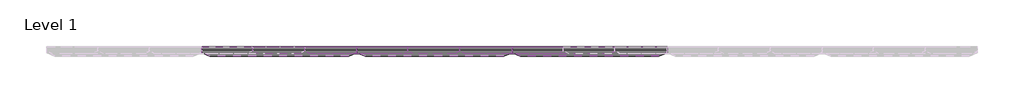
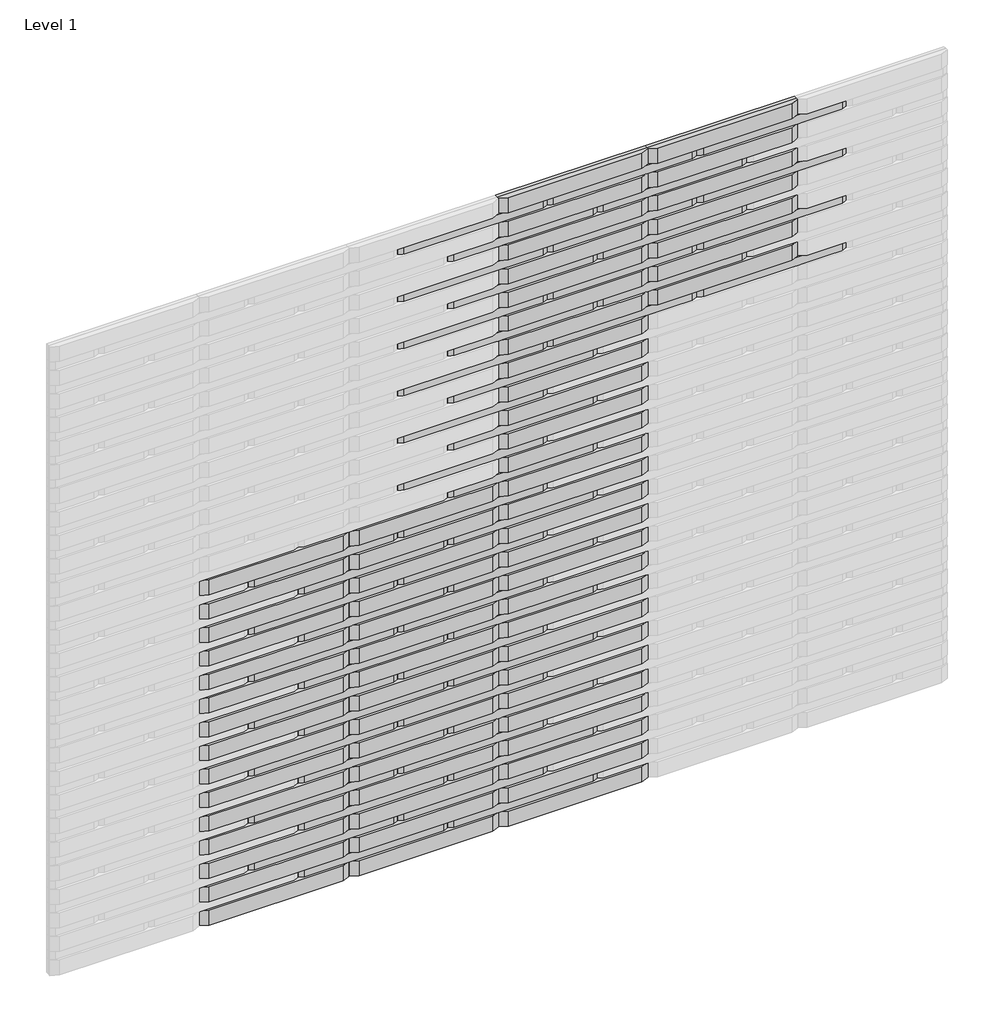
# One storey, part 2 of 3: 115 proxies.
"""IFC4 building model written with IfcOpenShell, lengths in millimetres."""

from ifc_helpers import new_model, si_unit, origin, place, context, project, spatial, transform, mapped, element, save
from components import specialty_equipment_40f1bc00, specialty_equipment_8bea2172

model = new_model("IFC4")

# Units and contexts
model_context = context("Model", 3, world=origin())
ifc_project = project(units=[si_unit("LENGTHUNIT", "METRE", prefix="MILLI")], contexts=[model_context])

# Site, building, storey
site = spatial("IfcSite", under=ifc_project)
building = spatial("IfcBuilding", under=site)
storey = spatial("IfcBuildingStorey", under=building, Name="Level 1", Elevation=0.0)

# Proxies
placement = place(None, origin())
specialty_equipment_shape = specialty_equipment_40f1bc00(model_context)
element("IfcBuildingElementProxy", 1, Name="Spinneybeck_ARO Plank 8 : A - 2’-9” x 3 1/2” x 1 1/4”", ObjectType="Spinneybeck_ARO Plank 8 : A - 2’-9” x 3 1/2” x 1 1/4”", at=placement, inside=storey, context=model_context, shape_type="MappedRepresentation", body=[
    mapped(specialty_equipment_shape, transform((2814.579612, 2593.3070483, 3755.55), x_axis=(1.0, 0.0, 0.0), y_axis=(0.0, 0.0, 1.0), z_axis=(0.0, -1.0, 0.0))),
])
element("IfcBuildingElementProxy", 2, Name="Spinneybeck_ARO Plank 8 : A - 2’-9” x 3 1/2” x 1 1/4”", ObjectType="Spinneybeck_ARO Plank 8 : A - 2’-9” x 3 1/2” x 1 1/4”", at=placement, inside=storey, context=model_context, shape_type="MappedRepresentation", body=[
    mapped(specialty_equipment_shape, transform((3652.779612, 2593.3070483, 3755.55), x_axis=(1.0, 0.0, 0.0), y_axis=(0.0, 0.0, 1.0), z_axis=(0.0, -1.0, 0.0))),
])
element("IfcBuildingElementProxy", 3, Name="Spinneybeck_ARO Plank 8 : A - 2’-9” x 3 1/2” x 1 1/4”", ObjectType="Spinneybeck_ARO Plank 8 : A - 2’-9” x 3 1/2” x 1 1/4”", at=placement, inside=storey, context=model_context, shape_type="MappedRepresentation", body=[
    mapped(specialty_equipment_shape, transform((2814.579612, 2593.3070483, 3615.85), x_axis=(1.0, 0.0, 0.0), y_axis=(0.0, 0.0, 1.0), z_axis=(0.0, -1.0, 0.0))),
])
element("IfcBuildingElementProxy", 4, Name="Spinneybeck_ARO Plank 8 : A - 2’-9” x 3 1/2” x 1 1/4”", ObjectType="Spinneybeck_ARO Plank 8 : A - 2’-9” x 3 1/2” x 1 1/4”", at=placement, inside=storey, context=model_context, shape_type="MappedRepresentation", body=[
    mapped(specialty_equipment_shape, transform((3652.779612, 2593.3070483, 3615.85), x_axis=(1.0, 0.0, 0.0), y_axis=(0.0, 0.0, 1.0), z_axis=(0.0, -1.0, 0.0))),
])
element("IfcBuildingElementProxy", 5, Name="Spinneybeck_ARO Plank 8 : A - 2’-9” x 3 1/2” x 1 1/4”", ObjectType="Spinneybeck_ARO Plank 8 : A - 2’-9” x 3 1/2” x 1 1/4”", at=placement, inside=storey, context=model_context, shape_type="MappedRepresentation", body=[
    mapped(specialty_equipment_shape, transform((2814.579612, 2593.3070483, 3476.15), x_axis=(1.0, 0.0, 0.0), y_axis=(0.0, 0.0, 1.0), z_axis=(0.0, -1.0, 0.0))),
])
element("IfcBuildingElementProxy", 6, Name="Spinneybeck_ARO Plank 8 : A - 2’-9” x 3 1/2” x 1 1/4”", ObjectType="Spinneybeck_ARO Plank 8 : A - 2’-9” x 3 1/2” x 1 1/4”", at=placement, inside=storey, context=model_context, shape_type="MappedRepresentation", body=[
    mapped(specialty_equipment_shape, transform((3652.779612, 2593.3070483, 3476.15), x_axis=(1.0, 0.0, 0.0), y_axis=(0.0, 0.0, 1.0), z_axis=(0.0, -1.0, 0.0))),
])
element("IfcBuildingElementProxy", 7, Name="Spinneybeck_ARO Plank 8 : A - 2’-9” x 3 1/2” x 1 1/4”", ObjectType="Spinneybeck_ARO Plank 8 : A - 2’-9” x 3 1/2” x 1 1/4”", at=placement, inside=storey, context=model_context, shape_type="MappedRepresentation", body=[
    mapped(specialty_equipment_shape, transform((2814.579612, 2593.3070483, 3336.45), x_axis=(1.0, 0.0, 0.0), y_axis=(0.0, 0.0, 1.0), z_axis=(0.0, -1.0, 0.0))),
])
element("IfcBuildingElementProxy", 8, Name="Spinneybeck_ARO Plank 8 : A - 2’-9” x 3 1/2” x 1 1/4”", ObjectType="Spinneybeck_ARO Plank 8 : A - 2’-9” x 3 1/2” x 1 1/4”", at=placement, inside=storey, context=model_context, shape_type="MappedRepresentation", body=[
    mapped(specialty_equipment_shape, transform((3652.779612, 2593.3070483, 3336.45), x_axis=(1.0, 0.0, 0.0), y_axis=(0.0, 0.0, 1.0), z_axis=(0.0, -1.0, 0.0))),
])
element("IfcBuildingElementProxy", 9, Name="Spinneybeck_ARO Plank 8 : A - 2’-9” x 3 1/2” x 1 1/4”", ObjectType="Spinneybeck_ARO Plank 8 : A - 2’-9” x 3 1/2” x 1 1/4”", at=placement, inside=storey, context=model_context, shape_type="MappedRepresentation", body=[
    mapped(specialty_equipment_shape, transform((2814.579612, 2593.3070483, 3196.75), x_axis=(1.0, 0.0, 0.0), y_axis=(0.0, 0.0, 1.0), z_axis=(0.0, -1.0, 0.0))),
])
element("IfcBuildingElementProxy", 10, Name="Spinneybeck_ARO Plank 8 : A - 2’-9” x 3 1/2” x 1 1/4”", ObjectType="Spinneybeck_ARO Plank 8 : A - 2’-9” x 3 1/2” x 1 1/4”", at=placement, inside=storey, context=model_context, shape_type="MappedRepresentation", body=[
    mapped(specialty_equipment_shape, transform((3652.779612, 2593.3070483, 3196.75), x_axis=(1.0, 0.0, 0.0), y_axis=(0.0, 0.0, 1.0), z_axis=(0.0, -1.0, 0.0))),
])
element("IfcBuildingElementProxy", 11, Name="Spinneybeck_ARO Plank 8 : A - 2’-9” x 3 1/2” x 1 1/4”", ObjectType="Spinneybeck_ARO Plank 8 : A - 2’-9” x 3 1/2” x 1 1/4”", at=placement, inside=storey, context=model_context, shape_type="MappedRepresentation", body=[
    mapped(specialty_equipment_shape, transform((2814.579612, 2593.3070483, 3057.05), x_axis=(1.0, 0.0, 0.0), y_axis=(0.0, 0.0, 1.0), z_axis=(0.0, -1.0, 0.0))),
])
element("IfcBuildingElementProxy", 12, Name="Spinneybeck_ARO Plank 8 : A - 2’-9” x 3 1/2” x 1 1/4”", ObjectType="Spinneybeck_ARO Plank 8 : A - 2’-9” x 3 1/2” x 1 1/4”", at=placement, inside=storey, context=model_context, shape_type="MappedRepresentation", body=[
    mapped(specialty_equipment_shape, transform((3652.779612, 2593.3070483, 3057.05), x_axis=(1.0, 0.0, 0.0), y_axis=(0.0, 0.0, 1.0), z_axis=(0.0, -1.0, 0.0))),
])
element("IfcBuildingElementProxy", 13, Name="Spinneybeck_ARO Plank 8 : A - 2’-9” x 3 1/2” x 1 1/4”", ObjectType="Spinneybeck_ARO Plank 8 : A - 2’-9” x 3 1/2” x 1 1/4”", at=placement, inside=storey, context=model_context, shape_type="MappedRepresentation", body=[
    mapped(specialty_equipment_shape, transform((2814.579612, 2593.3070483, 2917.35), x_axis=(1.0, 0.0, 0.0), y_axis=(0.0, 0.0, 1.0), z_axis=(0.0, -1.0, 0.0))),
])
element("IfcBuildingElementProxy", 14, Name="Spinneybeck_ARO Plank 8 : A - 2’-9” x 3 1/2” x 1 1/4”", ObjectType="Spinneybeck_ARO Plank 8 : A - 2’-9” x 3 1/2” x 1 1/4”", at=placement, inside=storey, context=model_context, shape_type="MappedRepresentation", body=[
    mapped(specialty_equipment_shape, transform((3652.779612, 2593.3070483, 2917.35), x_axis=(1.0, 0.0, 0.0), y_axis=(0.0, 0.0, 1.0), z_axis=(0.0, -1.0, 0.0))),
])
element("IfcBuildingElementProxy", 15, Name="Spinneybeck_ARO Plank 8 : A - 2’-9” x 3 1/2” x 1 1/4”", ObjectType="Spinneybeck_ARO Plank 8 : A - 2’-9” x 3 1/2” x 1 1/4”", at=placement, inside=storey, context=model_context, shape_type="MappedRepresentation", body=[
    mapped(specialty_equipment_shape, transform((2814.579612, 2593.3070483, 2777.65), x_axis=(1.0, 0.0, 0.0), y_axis=(0.0, 0.0, 1.0), z_axis=(0.0, -1.0, 0.0))),
])
element("IfcBuildingElementProxy", 16, Name="Spinneybeck_ARO Plank 8 : A - 2’-9” x 3 1/2” x 1 1/4”", ObjectType="Spinneybeck_ARO Plank 8 : A - 2’-9” x 3 1/2” x 1 1/4”", at=placement, inside=storey, context=model_context, shape_type="MappedRepresentation", body=[
    mapped(specialty_equipment_shape, transform((2814.579612, 2593.3070483, 2637.95), x_axis=(1.0, 0.0, 0.0), y_axis=(0.0, 0.0, 1.0), z_axis=(0.0, -1.0, 0.0))),
])
element("IfcBuildingElementProxy", 17, Name="Spinneybeck_ARO Plank 8 : A - 2’-9” x 3 1/2” x 1 1/4”", ObjectType="Spinneybeck_ARO Plank 8 : A - 2’-9” x 3 1/2” x 1 1/4”", at=placement, inside=storey, context=model_context, shape_type="MappedRepresentation", body=[
    mapped(specialty_equipment_shape, transform((2814.579612, 2593.3070483, 2498.25), x_axis=(1.0, 0.0, 0.0), y_axis=(0.0, 0.0, 1.0), z_axis=(0.0, -1.0, 0.0))),
])
element("IfcBuildingElementProxy", 18, Name="Spinneybeck_ARO Plank 8 : A - 2’-9” x 3 1/2” x 1 1/4”", ObjectType="Spinneybeck_ARO Plank 8 : A - 2’-9” x 3 1/2” x 1 1/4”", at=placement, inside=storey, context=model_context, shape_type="MappedRepresentation", body=[
    mapped(specialty_equipment_shape, transform((2814.579612, 2593.3070483, 2358.55), x_axis=(1.0, 0.0, 0.0), y_axis=(0.0, 0.0, 1.0), z_axis=(0.0, -1.0, 0.0))),
])
element("IfcBuildingElementProxy", 19, Name="Spinneybeck_ARO Plank 8 : A - 2’-9” x 3 1/2” x 1 1/4”", ObjectType="Spinneybeck_ARO Plank 8 : A - 2’-9” x 3 1/2” x 1 1/4”", at=placement, inside=storey, context=model_context, shape_type="MappedRepresentation", body=[
    mapped(specialty_equipment_shape, transform((2814.579612, 2593.3070483, 2218.85), x_axis=(1.0, 0.0, 0.0), y_axis=(0.0, 0.0, 1.0), z_axis=(0.0, -1.0, 0.0))),
])
element("IfcBuildingElementProxy", 20, Name="Spinneybeck_ARO Plank 8 : A - 2’-9” x 3 1/2” x 1 1/4”", ObjectType="Spinneybeck_ARO Plank 8 : A - 2’-9” x 3 1/2” x 1 1/4”", at=placement, inside=storey, context=model_context, shape_type="MappedRepresentation", body=[
    mapped(specialty_equipment_shape, transform((1138.179612, 2593.3070483, 2079.15), x_axis=(1.0, 0.0, 0.0), y_axis=(0.0, 0.0, 1.0), z_axis=(0.0, -1.0, 0.0))),
])
element("IfcBuildingElementProxy", 21, Name="Spinneybeck_ARO Plank 8 : A - 2’-9” x 3 1/2” x 1 1/4”", ObjectType="Spinneybeck_ARO Plank 8 : A - 2’-9” x 3 1/2” x 1 1/4”", at=placement, inside=storey, context=model_context, shape_type="MappedRepresentation", body=[
    mapped(specialty_equipment_shape, transform((1976.379612, 2593.3070483, 2079.15), x_axis=(1.0, 0.0, 0.0), y_axis=(0.0, 0.0, 1.0), z_axis=(0.0, -1.0, 0.0))),
])
element("IfcBuildingElementProxy", 22, Name="Spinneybeck_ARO Plank 8 : A - 2’-9” x 3 1/2” x 1 1/4”", ObjectType="Spinneybeck_ARO Plank 8 : A - 2’-9” x 3 1/2” x 1 1/4”", at=placement, inside=storey, context=model_context, shape_type="MappedRepresentation", body=[
    mapped(specialty_equipment_shape, transform((2814.579612, 2593.3070483, 2079.15), x_axis=(1.0, 0.0, 0.0), y_axis=(0.0, 0.0, 1.0), z_axis=(0.0, -1.0, 0.0))),
])
element("IfcBuildingElementProxy", 23, Name="Spinneybeck_ARO Plank 8 : A - 2’-9” x 3 1/2” x 1 1/4”", ObjectType="Spinneybeck_ARO Plank 8 : A - 2’-9” x 3 1/2” x 1 1/4”", at=placement, inside=storey, context=model_context, shape_type="MappedRepresentation", body=[
    mapped(specialty_equipment_shape, transform((1138.179612, 2593.3070483, 1939.45), x_axis=(1.0, 0.0, 0.0), y_axis=(0.0, 0.0, 1.0), z_axis=(0.0, -1.0, 0.0))),
])
element("IfcBuildingElementProxy", 24, Name="Spinneybeck_ARO Plank 8 : A - 2’-9” x 3 1/2” x 1 1/4”", ObjectType="Spinneybeck_ARO Plank 8 : A - 2’-9” x 3 1/2” x 1 1/4”", at=placement, inside=storey, context=model_context, shape_type="MappedRepresentation", body=[
    mapped(specialty_equipment_shape, transform((1976.379612, 2593.3070483, 1939.45), x_axis=(1.0, 0.0, 0.0), y_axis=(0.0, 0.0, 1.0), z_axis=(0.0, -1.0, 0.0))),
])
element("IfcBuildingElementProxy", 25, Name="Spinneybeck_ARO Plank 8 : A - 2’-9” x 3 1/2” x 1 1/4”", ObjectType="Spinneybeck_ARO Plank 8 : A - 2’-9” x 3 1/2” x 1 1/4”", at=placement, inside=storey, context=model_context, shape_type="MappedRepresentation", body=[
    mapped(specialty_equipment_shape, transform((2814.579612, 2593.3070483, 1939.45), x_axis=(1.0, 0.0, 0.0), y_axis=(0.0, 0.0, 1.0), z_axis=(0.0, -1.0, 0.0))),
])
element("IfcBuildingElementProxy", 26, Name="Spinneybeck_ARO Plank 8 : A - 2’-9” x 3 1/2” x 1 1/4”", ObjectType="Spinneybeck_ARO Plank 8 : A - 2’-9” x 3 1/2” x 1 1/4”", at=placement, inside=storey, context=model_context, shape_type="MappedRepresentation", body=[
    mapped(specialty_equipment_shape, transform((1138.179612, 2593.3070483, 1799.75), x_axis=(1.0, 0.0, 0.0), y_axis=(0.0, 0.0, 1.0), z_axis=(0.0, -1.0, 0.0))),
])
element("IfcBuildingElementProxy", 27, Name="Spinneybeck_ARO Plank 8 : A - 2’-9” x 3 1/2” x 1 1/4”", ObjectType="Spinneybeck_ARO Plank 8 : A - 2’-9” x 3 1/2” x 1 1/4”", at=placement, inside=storey, context=model_context, shape_type="MappedRepresentation", body=[
    mapped(specialty_equipment_shape, transform((1976.379612, 2593.3070483, 1799.75), x_axis=(1.0, 0.0, 0.0), y_axis=(0.0, 0.0, 1.0), z_axis=(0.0, -1.0, 0.0))),
])
element("IfcBuildingElementProxy", 28, Name="Spinneybeck_ARO Plank 8 : A - 2’-9” x 3 1/2” x 1 1/4”", ObjectType="Spinneybeck_ARO Plank 8 : A - 2’-9” x 3 1/2” x 1 1/4”", at=placement, inside=storey, context=model_context, shape_type="MappedRepresentation", body=[
    mapped(specialty_equipment_shape, transform((2814.579612, 2593.3070483, 1799.75), x_axis=(1.0, 0.0, 0.0), y_axis=(0.0, 0.0, 1.0), z_axis=(0.0, -1.0, 0.0))),
])
element("IfcBuildingElementProxy", 29, Name="Spinneybeck_ARO Plank 8 : A - 2’-9” x 3 1/2” x 1 1/4”", ObjectType="Spinneybeck_ARO Plank 8 : A - 2’-9” x 3 1/2” x 1 1/4”", at=placement, inside=storey, context=model_context, shape_type="MappedRepresentation", body=[
    mapped(specialty_equipment_shape, transform((1138.179612, 2593.3070483, 1660.05), x_axis=(1.0, 0.0, 0.0), y_axis=(0.0, 0.0, 1.0), z_axis=(0.0, -1.0, 0.0))),
])
element("IfcBuildingElementProxy", 30, Name="Spinneybeck_ARO Plank 8 : A - 2’-9” x 3 1/2” x 1 1/4”", ObjectType="Spinneybeck_ARO Plank 8 : A - 2’-9” x 3 1/2” x 1 1/4”", at=placement, inside=storey, context=model_context, shape_type="MappedRepresentation", body=[
    mapped(specialty_equipment_shape, transform((1976.379612, 2593.3070483, 1660.05), x_axis=(1.0, 0.0, 0.0), y_axis=(0.0, 0.0, 1.0), z_axis=(0.0, -1.0, 0.0))),
])
element("IfcBuildingElementProxy", 31, Name="Spinneybeck_ARO Plank 8 : A - 2’-9” x 3 1/2” x 1 1/4”", ObjectType="Spinneybeck_ARO Plank 8 : A - 2’-9” x 3 1/2” x 1 1/4”", at=placement, inside=storey, context=model_context, shape_type="MappedRepresentation", body=[
    mapped(specialty_equipment_shape, transform((2814.579612, 2593.3070483, 1660.05), x_axis=(1.0, 0.0, 0.0), y_axis=(0.0, 0.0, 1.0), z_axis=(0.0, -1.0, 0.0))),
])
element("IfcBuildingElementProxy", 32, Name="Spinneybeck_ARO Plank 8 : A - 2’-9” x 3 1/2” x 1 1/4”", ObjectType="Spinneybeck_ARO Plank 8 : A - 2’-9” x 3 1/2” x 1 1/4”", at=placement, inside=storey, context=model_context, shape_type="MappedRepresentation", body=[
    mapped(specialty_equipment_shape, transform((1138.179612, 2593.3070483, 1520.35), x_axis=(1.0, 0.0, 0.0), y_axis=(0.0, 0.0, 1.0), z_axis=(0.0, -1.0, 0.0))),
])
element("IfcBuildingElementProxy", 33, Name="Spinneybeck_ARO Plank 8 : A - 2’-9” x 3 1/2” x 1 1/4”", ObjectType="Spinneybeck_ARO Plank 8 : A - 2’-9” x 3 1/2” x 1 1/4”", at=placement, inside=storey, context=model_context, shape_type="MappedRepresentation", body=[
    mapped(specialty_equipment_shape, transform((1976.379612, 2593.3070483, 1520.35), x_axis=(1.0, 0.0, 0.0), y_axis=(0.0, 0.0, 1.0), z_axis=(0.0, -1.0, 0.0))),
])
element("IfcBuildingElementProxy", 34, Name="Spinneybeck_ARO Plank 8 : A - 2’-9” x 3 1/2” x 1 1/4”", ObjectType="Spinneybeck_ARO Plank 8 : A - 2’-9” x 3 1/2” x 1 1/4”", at=placement, inside=storey, context=model_context, shape_type="MappedRepresentation", body=[
    mapped(specialty_equipment_shape, transform((2814.579612, 2593.3070483, 1520.35), x_axis=(1.0, 0.0, 0.0), y_axis=(0.0, 0.0, 1.0), z_axis=(0.0, -1.0, 0.0))),
])
element("IfcBuildingElementProxy", 35, Name="Spinneybeck_ARO Plank 8 : A - 2’-9” x 3 1/2” x 1 1/4”", ObjectType="Spinneybeck_ARO Plank 8 : A - 2’-9” x 3 1/2” x 1 1/4”", at=placement, inside=storey, context=model_context, shape_type="MappedRepresentation", body=[
    mapped(specialty_equipment_shape, transform((1138.179612, 2593.3070483, 1380.65), x_axis=(1.0, 0.0, 0.0), y_axis=(0.0, 0.0, 1.0), z_axis=(0.0, -1.0, 0.0))),
])
element("IfcBuildingElementProxy", 36, Name="Spinneybeck_ARO Plank 8 : A - 2’-9” x 3 1/2” x 1 1/4”", ObjectType="Spinneybeck_ARO Plank 8 : A - 2’-9” x 3 1/2” x 1 1/4”", at=placement, inside=storey, context=model_context, shape_type="MappedRepresentation", body=[
    mapped(specialty_equipment_shape, transform((1976.379612, 2593.3070483, 1380.65), x_axis=(1.0, 0.0, 0.0), y_axis=(0.0, 0.0, 1.0), z_axis=(0.0, -1.0, 0.0))),
])
element("IfcBuildingElementProxy", 37, Name="Spinneybeck_ARO Plank 8 : A - 2’-9” x 3 1/2” x 1 1/4”", ObjectType="Spinneybeck_ARO Plank 8 : A - 2’-9” x 3 1/2” x 1 1/4”", at=placement, inside=storey, context=model_context, shape_type="MappedRepresentation", body=[
    mapped(specialty_equipment_shape, transform((2814.579612, 2593.3070483, 1380.65), x_axis=(1.0, 0.0, 0.0), y_axis=(0.0, 0.0, 1.0), z_axis=(0.0, -1.0, 0.0))),
])
element("IfcBuildingElementProxy", 38, Name="Spinneybeck_ARO Plank 8 : A - 2’-9” x 3 1/2” x 1 1/4”", ObjectType="Spinneybeck_ARO Plank 8 : A - 2’-9” x 3 1/2” x 1 1/4”", at=placement, inside=storey, context=model_context, shape_type="MappedRepresentation", body=[
    mapped(specialty_equipment_shape, transform((1138.179612, 2593.3070483, 1240.95), x_axis=(1.0, 0.0, 0.0), y_axis=(0.0, 0.0, 1.0), z_axis=(0.0, -1.0, 0.0))),
])
element("IfcBuildingElementProxy", 39, Name="Spinneybeck_ARO Plank 8 : A - 2’-9” x 3 1/2” x 1 1/4”", ObjectType="Spinneybeck_ARO Plank 8 : A - 2’-9” x 3 1/2” x 1 1/4”", at=placement, inside=storey, context=model_context, shape_type="MappedRepresentation", body=[
    mapped(specialty_equipment_shape, transform((1976.379612, 2593.3070483, 1240.95), x_axis=(1.0, 0.0, 0.0), y_axis=(0.0, 0.0, 1.0), z_axis=(0.0, -1.0, 0.0))),
])
element("IfcBuildingElementProxy", 40, Name="Spinneybeck_ARO Plank 8 : A - 2’-9” x 3 1/2” x 1 1/4”", ObjectType="Spinneybeck_ARO Plank 8 : A - 2’-9” x 3 1/2” x 1 1/4”", at=placement, inside=storey, context=model_context, shape_type="MappedRepresentation", body=[
    mapped(specialty_equipment_shape, transform((2814.579612, 2593.3070483, 1240.95), x_axis=(1.0, 0.0, 0.0), y_axis=(0.0, 0.0, 1.0), z_axis=(0.0, -1.0, 0.0))),
])
element("IfcBuildingElementProxy", 41, Name="Spinneybeck_ARO Plank 8 : A - 2’-9” x 3 1/2” x 1 1/4”", ObjectType="Spinneybeck_ARO Plank 8 : A - 2’-9” x 3 1/2” x 1 1/4”", at=placement, inside=storey, context=model_context, shape_type="MappedRepresentation", body=[
    mapped(specialty_equipment_shape, transform((1138.179612, 2593.3070483, 1101.25), x_axis=(1.0, 0.0, 0.0), y_axis=(0.0, 0.0, 1.0), z_axis=(0.0, -1.0, 0.0))),
])
element("IfcBuildingElementProxy", 42, Name="Spinneybeck_ARO Plank 8 : A - 2’-9” x 3 1/2” x 1 1/4”", ObjectType="Spinneybeck_ARO Plank 8 : A - 2’-9” x 3 1/2” x 1 1/4”", at=placement, inside=storey, context=model_context, shape_type="MappedRepresentation", body=[
    mapped(specialty_equipment_shape, transform((1976.379612, 2593.3070483, 1101.25), x_axis=(1.0, 0.0, 0.0), y_axis=(0.0, 0.0, 1.0), z_axis=(0.0, -1.0, 0.0))),
])
element("IfcBuildingElementProxy", 43, Name="Spinneybeck_ARO Plank 8 : A - 2’-9” x 3 1/2” x 1 1/4”", ObjectType="Spinneybeck_ARO Plank 8 : A - 2’-9” x 3 1/2” x 1 1/4”", at=placement, inside=storey, context=model_context, shape_type="MappedRepresentation", body=[
    mapped(specialty_equipment_shape, transform((2814.579612, 2593.3070483, 1101.25), x_axis=(1.0, 0.0, 0.0), y_axis=(0.0, 0.0, 1.0), z_axis=(0.0, -1.0, 0.0))),
])
element("IfcBuildingElementProxy", 44, Name="Spinneybeck_ARO Plank 8 : A - 2’-9” x 3 1/2” x 1 1/4”", ObjectType="Spinneybeck_ARO Plank 8 : A - 2’-9” x 3 1/2” x 1 1/4”", at=placement, inside=storey, context=model_context, shape_type="MappedRepresentation", body=[
    mapped(specialty_equipment_shape, transform((1138.179612, 2593.3070483, 961.55), x_axis=(1.0, 0.0, 0.0), y_axis=(0.0, 0.0, 1.0), z_axis=(0.0, -1.0, 0.0))),
])
element("IfcBuildingElementProxy", 45, Name="Spinneybeck_ARO Plank 8 : A - 2’-9” x 3 1/2” x 1 1/4”", ObjectType="Spinneybeck_ARO Plank 8 : A - 2’-9” x 3 1/2” x 1 1/4”", at=placement, inside=storey, context=model_context, shape_type="MappedRepresentation", body=[
    mapped(specialty_equipment_shape, transform((1976.379612, 2593.3070483, 961.55), x_axis=(1.0, 0.0, 0.0), y_axis=(0.0, 0.0, 1.0), z_axis=(0.0, -1.0, 0.0))),
])
element("IfcBuildingElementProxy", 46, Name="Spinneybeck_ARO Plank 8 : A - 2’-9” x 3 1/2” x 1 1/4”", ObjectType="Spinneybeck_ARO Plank 8 : A - 2’-9” x 3 1/2” x 1 1/4”", at=placement, inside=storey, context=model_context, shape_type="MappedRepresentation", body=[
    mapped(specialty_equipment_shape, transform((2814.579612, 2593.3070483, 961.55), x_axis=(1.0, 0.0, 0.0), y_axis=(0.0, 0.0, 1.0), z_axis=(0.0, -1.0, 0.0))),
])
element("IfcBuildingElementProxy", 47, Name="Spinneybeck_ARO Plank 8 : A - 2’-9” x 3 1/2” x 1 1/4”", ObjectType="Spinneybeck_ARO Plank 8 : A - 2’-9” x 3 1/2” x 1 1/4”", at=placement, inside=storey, context=model_context, shape_type="MappedRepresentation", body=[
    mapped(specialty_equipment_shape, transform((1138.179612, 2593.3070483, 821.85), x_axis=(1.0, 0.0, 0.0), y_axis=(0.0, 0.0, 1.0), z_axis=(0.0, -1.0, 0.0))),
])
element("IfcBuildingElementProxy", 48, Name="Spinneybeck_ARO Plank 8 : A - 2’-9” x 3 1/2” x 1 1/4”", ObjectType="Spinneybeck_ARO Plank 8 : A - 2’-9” x 3 1/2” x 1 1/4”", at=placement, inside=storey, context=model_context, shape_type="MappedRepresentation", body=[
    mapped(specialty_equipment_shape, transform((1976.379612, 2593.3070483, 821.85), x_axis=(1.0, 0.0, 0.0), y_axis=(0.0, 0.0, 1.0), z_axis=(0.0, -1.0, 0.0))),
])
element("IfcBuildingElementProxy", 49, Name="Spinneybeck_ARO Plank 8 : A - 2’-9” x 3 1/2” x 1 1/4”", ObjectType="Spinneybeck_ARO Plank 8 : A - 2’-9” x 3 1/2” x 1 1/4”", at=placement, inside=storey, context=model_context, shape_type="MappedRepresentation", body=[
    mapped(specialty_equipment_shape, transform((2814.579612, 2593.3070483, 821.85), x_axis=(1.0, 0.0, 0.0), y_axis=(0.0, 0.0, 1.0), z_axis=(0.0, -1.0, 0.0))),
])
element("IfcBuildingElementProxy", 50, Name="Spinneybeck_ARO Plank 8 : A - 2’-9” x 3 1/2” x 1 1/4”", ObjectType="Spinneybeck_ARO Plank 8 : A - 2’-9” x 3 1/2” x 1 1/4”", at=placement, inside=storey, context=model_context, shape_type="MappedRepresentation", body=[
    mapped(specialty_equipment_shape, transform((1138.179612, 2593.3070483, 682.15), x_axis=(1.0, 0.0, 0.0), y_axis=(0.0, 0.0, 1.0), z_axis=(0.0, -1.0, 0.0))),
])
element("IfcBuildingElementProxy", 51, Name="Spinneybeck_ARO Plank 8 : A - 2’-9” x 3 1/2” x 1 1/4”", ObjectType="Spinneybeck_ARO Plank 8 : A - 2’-9” x 3 1/2” x 1 1/4”", at=placement, inside=storey, context=model_context, shape_type="MappedRepresentation", body=[
    mapped(specialty_equipment_shape, transform((1976.379612, 2593.3070483, 682.15), x_axis=(1.0, 0.0, 0.0), y_axis=(0.0, 0.0, 1.0), z_axis=(0.0, -1.0, 0.0))),
])
element("IfcBuildingElementProxy", 52, Name="Spinneybeck_ARO Plank 8 : A - 2’-9” x 3 1/2” x 1 1/4”", ObjectType="Spinneybeck_ARO Plank 8 : A - 2’-9” x 3 1/2” x 1 1/4”", at=placement, inside=storey, context=model_context, shape_type="MappedRepresentation", body=[
    mapped(specialty_equipment_shape, transform((2814.579612, 2593.3070483, 682.15), x_axis=(1.0, 0.0, 0.0), y_axis=(0.0, 0.0, 1.0), z_axis=(0.0, -1.0, 0.0))),
])
element("IfcBuildingElementProxy", 53, Name="Spinneybeck_ARO Plank 8 : A - 2’-9” x 3 1/2” x 1 1/4”", ObjectType="Spinneybeck_ARO Plank 8 : A - 2’-9” x 3 1/2” x 1 1/4”", at=placement, inside=storey, context=model_context, shape_type="MappedRepresentation", body=[
    mapped(specialty_equipment_shape, transform((1138.179612, 2593.3070483, 542.45), x_axis=(1.0, 0.0, 0.0), y_axis=(0.0, 0.0, 1.0), z_axis=(0.0, -1.0, 0.0))),
])
element("IfcBuildingElementProxy", 54, Name="Spinneybeck_ARO Plank 8 : A - 2’-9” x 3 1/2” x 1 1/4”", ObjectType="Spinneybeck_ARO Plank 8 : A - 2’-9” x 3 1/2” x 1 1/4”", at=placement, inside=storey, context=model_context, shape_type="MappedRepresentation", body=[
    mapped(specialty_equipment_shape, transform((1976.379612, 2593.3070483, 542.45), x_axis=(1.0, 0.0, 0.0), y_axis=(0.0, 0.0, 1.0), z_axis=(0.0, -1.0, 0.0))),
])
element("IfcBuildingElementProxy", 55, Name="Spinneybeck_ARO Plank 8 : A - 2’-9” x 3 1/2” x 1 1/4”", ObjectType="Spinneybeck_ARO Plank 8 : A - 2’-9” x 3 1/2” x 1 1/4”", at=placement, inside=storey, context=model_context, shape_type="MappedRepresentation", body=[
    mapped(specialty_equipment_shape, transform((2814.579612, 2593.3070483, 542.45), x_axis=(1.0, 0.0, 0.0), y_axis=(0.0, 0.0, 1.0), z_axis=(0.0, -1.0, 0.0))),
])
element("IfcBuildingElementProxy", 56, Name="Spinneybeck_ARO Plank 8 : A - 2’-9” x 3 1/2” x 1 1/4”", ObjectType="Spinneybeck_ARO Plank 8 : A - 2’-9” x 3 1/2” x 1 1/4”", at=placement, inside=storey, context=model_context, shape_type="MappedRepresentation", body=[
    mapped(specialty_equipment_shape, transform((1138.179612, 2593.3070483, 402.75), x_axis=(1.0, 0.0, 0.0), y_axis=(0.0, 0.0, 1.0), z_axis=(0.0, -1.0, 0.0))),
])
element("IfcBuildingElementProxy", 57, Name="Spinneybeck_ARO Plank 8 : A - 2’-9” x 3 1/2” x 1 1/4”", ObjectType="Spinneybeck_ARO Plank 8 : A - 2’-9” x 3 1/2” x 1 1/4”", at=placement, inside=storey, context=model_context, shape_type="MappedRepresentation", body=[
    mapped(specialty_equipment_shape, transform((1976.379612, 2593.3070483, 402.75), x_axis=(1.0, 0.0, 0.0), y_axis=(0.0, 0.0, 1.0), z_axis=(0.0, -1.0, 0.0))),
])
element("IfcBuildingElementProxy", 58, Name="Spinneybeck_ARO Plank 8 : A - 2’-9” x 3 1/2” x 1 1/4”", ObjectType="Spinneybeck_ARO Plank 8 : A - 2’-9” x 3 1/2” x 1 1/4”", at=placement, inside=storey, context=model_context, shape_type="MappedRepresentation", body=[
    mapped(specialty_equipment_shape, transform((2814.579612, 2593.3070483, 402.75), x_axis=(1.0, 0.0, 0.0), y_axis=(0.0, 0.0, 1.0), z_axis=(0.0, -1.0, 0.0))),
])
element("IfcBuildingElementProxy", 59, Name="Spinneybeck_ARO Plank 8 : A - 2’-9” x 3 1/2” x 1 1/4”", ObjectType="Spinneybeck_ARO Plank 8 : A - 2’-9” x 3 1/2” x 1 1/4”", at=placement, inside=storey, context=model_context, shape_type="MappedRepresentation", body=[
    mapped(specialty_equipment_shape, transform((1138.179612, 2593.3070483, 263.05), x_axis=(1.0, 0.0, 0.0), y_axis=(0.0, 0.0, 1.0), z_axis=(0.0, -1.0, 0.0))),
])
element("IfcBuildingElementProxy", 60, Name="Spinneybeck_ARO Plank 8 : A - 2’-9” x 3 1/2” x 1 1/4”", ObjectType="Spinneybeck_ARO Plank 8 : A - 2’-9” x 3 1/2” x 1 1/4”", at=placement, inside=storey, context=model_context, shape_type="MappedRepresentation", body=[
    mapped(specialty_equipment_shape, transform((1976.379612, 2593.3070483, 263.05), x_axis=(1.0, 0.0, 0.0), y_axis=(0.0, 0.0, 1.0), z_axis=(0.0, -1.0, 0.0))),
])
element("IfcBuildingElementProxy", 61, Name="Spinneybeck_ARO Plank 8 : A - 2’-9” x 3 1/2” x 1 1/4”", ObjectType="Spinneybeck_ARO Plank 8 : A - 2’-9” x 3 1/2” x 1 1/4”", at=placement, inside=storey, context=model_context, shape_type="MappedRepresentation", body=[
    mapped(specialty_equipment_shape, transform((2814.579612, 2593.3070483, 263.05), x_axis=(1.0, 0.0, 0.0), y_axis=(0.0, 0.0, 1.0), z_axis=(0.0, -1.0, 0.0))),
])
element("IfcBuildingElementProxy", 62, Name="Spinneybeck_ARO Plank 8 : A - 2’-9” x 3 1/2” x 1 1/4”", ObjectType="Spinneybeck_ARO Plank 8 : A - 2’-9” x 3 1/2” x 1 1/4”", at=placement, inside=storey, context=model_context, shape_type="MappedRepresentation", body=[
    mapped(specialty_equipment_shape, transform((1138.179612, 2593.3070483, 123.35), x_axis=(1.0, 0.0, 0.0), y_axis=(0.0, 0.0, 1.0), z_axis=(0.0, -1.0, 0.0))),
])
element("IfcBuildingElementProxy", 63, Name="Spinneybeck_ARO Plank 8 : A - 2’-9” x 3 1/2” x 1 1/4”", ObjectType="Spinneybeck_ARO Plank 8 : A - 2’-9” x 3 1/2” x 1 1/4”", at=placement, inside=storey, context=model_context, shape_type="MappedRepresentation", body=[
    mapped(specialty_equipment_shape, transform((1976.379612, 2593.3070483, 123.35), x_axis=(1.0, 0.0, 0.0), y_axis=(0.0, 0.0, 1.0), z_axis=(0.0, -1.0, 0.0))),
])
element("IfcBuildingElementProxy", 64, Name="Spinneybeck_ARO Plank 8 : A - 2’-9” x 3 1/2” x 1 1/4”", ObjectType="Spinneybeck_ARO Plank 8 : A - 2’-9” x 3 1/2” x 1 1/4”", at=placement, inside=storey, context=model_context, shape_type="MappedRepresentation", body=[
    mapped(specialty_equipment_shape, transform((2814.579612, 2593.3070483, 123.35), x_axis=(1.0, 0.0, 0.0), y_axis=(0.0, 0.0, 1.0), z_axis=(0.0, -1.0, 0.0))),
])
specialty_equipment_2_shape = specialty_equipment_8bea2172(model_context)
element("IfcBuildingElementProxy", 65, Name="Spinneybeck_ARO Plank 8 : B - 2’-9” x 2” x 3/4”", ObjectType="Spinneybeck_ARO Plank 8 : B - 2’-9” x 2” x 3/4”", at=placement, inside=storey, context=model_context, shape_type="MappedRepresentation", body=[
    mapped(specialty_equipment_2_shape, transform((2252.036232, 2593.3070483, 3685.7), x_axis=(1.0, 0.0, 0.0), y_axis=(0.0, 0.0, 1.0), z_axis=(0.0, -1.0, 0.0))),
])
element("IfcBuildingElementProxy", 66, Name="Spinneybeck_ARO Plank 8 : B - 2’-9” x 2” x 3/4”", ObjectType="Spinneybeck_ARO Plank 8 : B - 2’-9” x 2” x 3/4”", at=placement, inside=storey, context=model_context, shape_type="MappedRepresentation", body=[
    mapped(specialty_equipment_2_shape, transform((3090.236232, 2593.3070483, 3685.7), x_axis=(1.0, 0.0, 0.0), y_axis=(0.0, 0.0, 1.0), z_axis=(0.0, -1.0, 0.0))),
])
element("IfcBuildingElementProxy", 67, Name="Spinneybeck_ARO Plank 8 : B - 2’-9” x 2” x 3/4”", ObjectType="Spinneybeck_ARO Plank 8 : B - 2’-9” x 2” x 3/4”", at=placement, inside=storey, context=model_context, shape_type="MappedRepresentation", body=[
    mapped(specialty_equipment_2_shape, transform((3928.436232, 2593.3070483, 3685.7), x_axis=(1.0, 0.0, 0.0), y_axis=(0.0, 0.0, 1.0), z_axis=(0.0, -1.0, 0.0))),
])
element("IfcBuildingElementProxy", 68, Name="Spinneybeck_ARO Plank 8 : B - 2’-9” x 2” x 3/4”", ObjectType="Spinneybeck_ARO Plank 8 : B - 2’-9” x 2” x 3/4”", at=placement, inside=storey, context=model_context, shape_type="MappedRepresentation", body=[
    mapped(specialty_equipment_2_shape, transform((2532.036232, 2593.3070483, 3546.0), x_axis=(1.0, 0.0, 0.0), y_axis=(0.0, 0.0, 1.0), z_axis=(0.0, -1.0, 0.0))),
])
element("IfcBuildingElementProxy", 69, Name="Spinneybeck_ARO Plank 8 : B - 2’-9” x 2” x 3/4”", ObjectType="Spinneybeck_ARO Plank 8 : B - 2’-9” x 2” x 3/4”", at=placement, inside=storey, context=model_context, shape_type="MappedRepresentation", body=[
    mapped(specialty_equipment_2_shape, transform((3370.236232, 2593.3070483, 3546.0), x_axis=(1.0, 0.0, 0.0), y_axis=(0.0, 0.0, 1.0), z_axis=(0.0, -1.0, 0.0))),
])
element("IfcBuildingElementProxy", 70, Name="Spinneybeck_ARO Plank 8 : B - 2’-9” x 2” x 3/4”", ObjectType="Spinneybeck_ARO Plank 8 : B - 2’-9” x 2” x 3/4”", at=placement, inside=storey, context=model_context, shape_type="MappedRepresentation", body=[
    mapped(specialty_equipment_2_shape, transform((2252.036232, 2593.3070483, 3406.3), x_axis=(1.0, 0.0, 0.0), y_axis=(0.0, 0.0, 1.0), z_axis=(0.0, -1.0, 0.0))),
])
element("IfcBuildingElementProxy", 71, Name="Spinneybeck_ARO Plank 8 : B - 2’-9” x 2” x 3/4”", ObjectType="Spinneybeck_ARO Plank 8 : B - 2’-9” x 2” x 3/4”", at=placement, inside=storey, context=model_context, shape_type="MappedRepresentation", body=[
    mapped(specialty_equipment_2_shape, transform((3090.236232, 2593.3070483, 3406.3), x_axis=(1.0, 0.0, 0.0), y_axis=(0.0, 0.0, 1.0), z_axis=(0.0, -1.0, 0.0))),
])
element("IfcBuildingElementProxy", 72, Name="Spinneybeck_ARO Plank 8 : B - 2’-9” x 2” x 3/4”", ObjectType="Spinneybeck_ARO Plank 8 : B - 2’-9” x 2” x 3/4”", at=placement, inside=storey, context=model_context, shape_type="MappedRepresentation", body=[
    mapped(specialty_equipment_2_shape, transform((3928.436232, 2593.3070483, 3406.3), x_axis=(1.0, 0.0, 0.0), y_axis=(0.0, 0.0, 1.0), z_axis=(0.0, -1.0, 0.0))),
])
element("IfcBuildingElementProxy", 73, Name="Spinneybeck_ARO Plank 8 : B - 2’-9” x 2” x 3/4”", ObjectType="Spinneybeck_ARO Plank 8 : B - 2’-9” x 2” x 3/4”", at=placement, inside=storey, context=model_context, shape_type="MappedRepresentation", body=[
    mapped(specialty_equipment_2_shape, transform((2532.036232, 2593.3070483, 3266.6), x_axis=(1.0, 0.0, 0.0), y_axis=(0.0, 0.0, 1.0), z_axis=(0.0, -1.0, 0.0))),
])
element("IfcBuildingElementProxy", 74, Name="Spinneybeck_ARO Plank 8 : B - 2’-9” x 2” x 3/4”", ObjectType="Spinneybeck_ARO Plank 8 : B - 2’-9” x 2” x 3/4”", at=placement, inside=storey, context=model_context, shape_type="MappedRepresentation", body=[
    mapped(specialty_equipment_2_shape, transform((3370.236232, 2593.3070483, 3266.6), x_axis=(1.0, 0.0, 0.0), y_axis=(0.0, 0.0, 1.0), z_axis=(0.0, -1.0, 0.0))),
])
element("IfcBuildingElementProxy", 75, Name="Spinneybeck_ARO Plank 8 : B - 2’-9” x 2” x 3/4”", ObjectType="Spinneybeck_ARO Plank 8 : B - 2’-9” x 2” x 3/4”", at=placement, inside=storey, context=model_context, shape_type="MappedRepresentation", body=[
    mapped(specialty_equipment_2_shape, transform((2252.036232, 2593.3070483, 3126.9), x_axis=(1.0, 0.0, 0.0), y_axis=(0.0, 0.0, 1.0), z_axis=(0.0, -1.0, 0.0))),
])
element("IfcBuildingElementProxy", 76, Name="Spinneybeck_ARO Plank 8 : B - 2’-9” x 2” x 3/4”", ObjectType="Spinneybeck_ARO Plank 8 : B - 2’-9” x 2” x 3/4”", at=placement, inside=storey, context=model_context, shape_type="MappedRepresentation", body=[
    mapped(specialty_equipment_2_shape, transform((3090.236232, 2593.3070483, 3126.9), x_axis=(1.0, 0.0, 0.0), y_axis=(0.0, 0.0, 1.0), z_axis=(0.0, -1.0, 0.0))),
])
element("IfcBuildingElementProxy", 77, Name="Spinneybeck_ARO Plank 8 : B - 2’-9” x 2” x 3/4”", ObjectType="Spinneybeck_ARO Plank 8 : B - 2’-9” x 2” x 3/4”", at=placement, inside=storey, context=model_context, shape_type="MappedRepresentation", body=[
    mapped(specialty_equipment_2_shape, transform((3928.436232, 2593.3070483, 3126.9), x_axis=(1.0, 0.0, 0.0), y_axis=(0.0, 0.0, 1.0), z_axis=(0.0, -1.0, 0.0))),
])
element("IfcBuildingElementProxy", 78, Name="Spinneybeck_ARO Plank 8 : B - 2’-9” x 2” x 3/4”", ObjectType="Spinneybeck_ARO Plank 8 : B - 2’-9” x 2” x 3/4”", at=placement, inside=storey, context=model_context, shape_type="MappedRepresentation", body=[
    mapped(specialty_equipment_2_shape, transform((2532.036232, 2593.3070483, 2987.2), x_axis=(1.0, 0.0, 0.0), y_axis=(0.0, 0.0, 1.0), z_axis=(0.0, -1.0, 0.0))),
])
element("IfcBuildingElementProxy", 79, Name="Spinneybeck_ARO Plank 8 : B - 2’-9” x 2” x 3/4”", ObjectType="Spinneybeck_ARO Plank 8 : B - 2’-9” x 2” x 3/4”", at=placement, inside=storey, context=model_context, shape_type="MappedRepresentation", body=[
    mapped(specialty_equipment_2_shape, transform((3370.236232, 2593.3070483, 2987.2), x_axis=(1.0, 0.0, 0.0), y_axis=(0.0, 0.0, 1.0), z_axis=(0.0, -1.0, 0.0))),
])
element("IfcBuildingElementProxy", 80, Name="Spinneybeck_ARO Plank 8 : B - 2’-9” x 2” x 3/4”", ObjectType="Spinneybeck_ARO Plank 8 : B - 2’-9” x 2” x 3/4”", at=placement, inside=storey, context=model_context, shape_type="MappedRepresentation", body=[
    mapped(specialty_equipment_2_shape, transform((2252.036232, 2593.3070483, 2847.5), x_axis=(1.0, 0.0, 0.0), y_axis=(0.0, 0.0, 1.0), z_axis=(0.0, -1.0, 0.0))),
])
element("IfcBuildingElementProxy", 81, Name="Spinneybeck_ARO Plank 8 : B - 2’-9” x 2” x 3/4”", ObjectType="Spinneybeck_ARO Plank 8 : B - 2’-9” x 2” x 3/4”", at=placement, inside=storey, context=model_context, shape_type="MappedRepresentation", body=[
    mapped(specialty_equipment_2_shape, transform((3090.236232, 2593.3070483, 2847.5), x_axis=(1.0, 0.0, 0.0), y_axis=(0.0, 0.0, 1.0), z_axis=(0.0, -1.0, 0.0))),
])
element("IfcBuildingElementProxy", 82, Name="Spinneybeck_ARO Plank 8 : B - 2’-9” x 2” x 3/4”", ObjectType="Spinneybeck_ARO Plank 8 : B - 2’-9” x 2” x 3/4”", at=placement, inside=storey, context=model_context, shape_type="MappedRepresentation", body=[
    mapped(specialty_equipment_2_shape, transform((3928.436232, 2593.3070483, 2847.5), x_axis=(1.0, 0.0, 0.0), y_axis=(0.0, 0.0, 1.0), z_axis=(0.0, -1.0, 0.0))),
])
element("IfcBuildingElementProxy", 83, Name="Spinneybeck_ARO Plank 8 : B - 2’-9” x 2” x 3/4”", ObjectType="Spinneybeck_ARO Plank 8 : B - 2’-9” x 2” x 3/4”", at=placement, inside=storey, context=model_context, shape_type="MappedRepresentation", body=[
    mapped(specialty_equipment_2_shape, transform((2532.036232, 2593.3070483, 2707.8), x_axis=(1.0, 0.0, 0.0), y_axis=(0.0, 0.0, 1.0), z_axis=(0.0, -1.0, 0.0))),
])
element("IfcBuildingElementProxy", 84, Name="Spinneybeck_ARO Plank 8 : B - 2’-9” x 2” x 3/4”", ObjectType="Spinneybeck_ARO Plank 8 : B - 2’-9” x 2” x 3/4”", at=placement, inside=storey, context=model_context, shape_type="MappedRepresentation", body=[
    mapped(specialty_equipment_2_shape, transform((2252.036232, 2593.3070483, 2568.1), x_axis=(1.0, 0.0, 0.0), y_axis=(0.0, 0.0, 1.0), z_axis=(0.0, -1.0, 0.0))),
])
element("IfcBuildingElementProxy", 85, Name="Spinneybeck_ARO Plank 8 : B - 2’-9” x 2” x 3/4”", ObjectType="Spinneybeck_ARO Plank 8 : B - 2’-9” x 2” x 3/4”", at=placement, inside=storey, context=model_context, shape_type="MappedRepresentation", body=[
    mapped(specialty_equipment_2_shape, transform((2532.036232, 2593.3070483, 2428.4), x_axis=(1.0, 0.0, 0.0), y_axis=(0.0, 0.0, 1.0), z_axis=(0.0, -1.0, 0.0))),
])
element("IfcBuildingElementProxy", 86, Name="Spinneybeck_ARO Plank 8 : B - 2’-9” x 2” x 3/4”", ObjectType="Spinneybeck_ARO Plank 8 : B - 2’-9” x 2” x 3/4”", at=placement, inside=storey, context=model_context, shape_type="MappedRepresentation", body=[
    mapped(specialty_equipment_2_shape, transform((2252.036232, 2593.3070483, 2288.7), x_axis=(1.0, 0.0, 0.0), y_axis=(0.0, 0.0, 1.0), z_axis=(0.0, -1.0, 0.0))),
])
element("IfcBuildingElementProxy", 87, Name="Spinneybeck_ARO Plank 8 : B - 2’-9” x 2” x 3/4”", ObjectType="Spinneybeck_ARO Plank 8 : B - 2’-9” x 2” x 3/4”", at=placement, inside=storey, context=model_context, shape_type="MappedRepresentation", body=[
    mapped(specialty_equipment_2_shape, transform((2532.036232, 2593.3070483, 2149.0), x_axis=(1.0, 0.0, 0.0), y_axis=(0.0, 0.0, 1.0), z_axis=(0.0, -1.0, 0.0))),
])
element("IfcBuildingElementProxy", 88, Name="Spinneybeck_ARO Plank 8 : B - 2’-9” x 2” x 3/4”", ObjectType="Spinneybeck_ARO Plank 8 : B - 2’-9” x 2” x 3/4”", at=placement, inside=storey, context=model_context, shape_type="MappedRepresentation", body=[
    mapped(specialty_equipment_2_shape, transform((1413.836232, 2593.3070483, 2009.3), x_axis=(1.0, 0.0, 0.0), y_axis=(0.0, 0.0, 1.0), z_axis=(0.0, -1.0, 0.0))),
])
element("IfcBuildingElementProxy", 89, Name="Spinneybeck_ARO Plank 8 : B - 2’-9” x 2” x 3/4”", ObjectType="Spinneybeck_ARO Plank 8 : B - 2’-9” x 2” x 3/4”", at=placement, inside=storey, context=model_context, shape_type="MappedRepresentation", body=[
    mapped(specialty_equipment_2_shape, transform((2252.036232, 2593.3070483, 2009.3), x_axis=(1.0, 0.0, 0.0), y_axis=(0.0, 0.0, 1.0), z_axis=(0.0, -1.0, 0.0))),
])
element("IfcBuildingElementProxy", 90, Name="Spinneybeck_ARO Plank 8 : B - 2’-9” x 2” x 3/4”", ObjectType="Spinneybeck_ARO Plank 8 : B - 2’-9” x 2” x 3/4”", at=placement, inside=storey, context=model_context, shape_type="MappedRepresentation", body=[
    mapped(specialty_equipment_2_shape, transform((1693.836232, 2593.3070483, 1869.6), x_axis=(1.0, 0.0, 0.0), y_axis=(0.0, 0.0, 1.0), z_axis=(0.0, -1.0, 0.0))),
])
element("IfcBuildingElementProxy", 91, Name="Spinneybeck_ARO Plank 8 : B - 2’-9” x 2” x 3/4”", ObjectType="Spinneybeck_ARO Plank 8 : B - 2’-9” x 2” x 3/4”", at=placement, inside=storey, context=model_context, shape_type="MappedRepresentation", body=[
    mapped(specialty_equipment_2_shape, transform((2532.036232, 2593.3070483, 1869.6), x_axis=(1.0, 0.0, 0.0), y_axis=(0.0, 0.0, 1.0), z_axis=(0.0, -1.0, 0.0))),
])
element("IfcBuildingElementProxy", 92, Name="Spinneybeck_ARO Plank 8 : B - 2’-9” x 2” x 3/4”", ObjectType="Spinneybeck_ARO Plank 8 : B - 2’-9” x 2” x 3/4”", at=placement, inside=storey, context=model_context, shape_type="MappedRepresentation", body=[
    mapped(specialty_equipment_2_shape, transform((1413.836232, 2593.3070483, 1729.9), x_axis=(1.0, 0.0, 0.0), y_axis=(0.0, 0.0, 1.0), z_axis=(0.0, -1.0, 0.0))),
])
element("IfcBuildingElementProxy", 93, Name="Spinneybeck_ARO Plank 8 : B - 2’-9” x 2” x 3/4”", ObjectType="Spinneybeck_ARO Plank 8 : B - 2’-9” x 2” x 3/4”", at=placement, inside=storey, context=model_context, shape_type="MappedRepresentation", body=[
    mapped(specialty_equipment_2_shape, transform((2252.036232, 2593.3070483, 1729.9), x_axis=(1.0, 0.0, 0.0), y_axis=(0.0, 0.0, 1.0), z_axis=(0.0, -1.0, 0.0))),
])
element("IfcBuildingElementProxy", 94, Name="Spinneybeck_ARO Plank 8 : B - 2’-9” x 2” x 3/4”", ObjectType="Spinneybeck_ARO Plank 8 : B - 2’-9” x 2” x 3/4”", at=placement, inside=storey, context=model_context, shape_type="MappedRepresentation", body=[
    mapped(specialty_equipment_2_shape, transform((1693.836232, 2593.3070483, 1590.2), x_axis=(1.0, 0.0, 0.0), y_axis=(0.0, 0.0, 1.0), z_axis=(0.0, -1.0, 0.0))),
])
element("IfcBuildingElementProxy", 95, Name="Spinneybeck_ARO Plank 8 : B - 2’-9” x 2” x 3/4”", ObjectType="Spinneybeck_ARO Plank 8 : B - 2’-9” x 2” x 3/4”", at=placement, inside=storey, context=model_context, shape_type="MappedRepresentation", body=[
    mapped(specialty_equipment_2_shape, transform((2532.036232, 2593.3070483, 1590.2), x_axis=(1.0, 0.0, 0.0), y_axis=(0.0, 0.0, 1.0), z_axis=(0.0, -1.0, 0.0))),
])
element("IfcBuildingElementProxy", 96, Name="Spinneybeck_ARO Plank 8 : B - 2’-9” x 2” x 3/4”", ObjectType="Spinneybeck_ARO Plank 8 : B - 2’-9” x 2” x 3/4”", at=placement, inside=storey, context=model_context, shape_type="MappedRepresentation", body=[
    mapped(specialty_equipment_2_shape, transform((1413.836232, 2593.3070483, 1450.5), x_axis=(1.0, 0.0, 0.0), y_axis=(0.0, 0.0, 1.0), z_axis=(0.0, -1.0, 0.0))),
])
element("IfcBuildingElementProxy", 97, Name="Spinneybeck_ARO Plank 8 : B - 2’-9” x 2” x 3/4”", ObjectType="Spinneybeck_ARO Plank 8 : B - 2’-9” x 2” x 3/4”", at=placement, inside=storey, context=model_context, shape_type="MappedRepresentation", body=[
    mapped(specialty_equipment_2_shape, transform((2252.036232, 2593.3070483, 1450.5), x_axis=(1.0, 0.0, 0.0), y_axis=(0.0, 0.0, 1.0), z_axis=(0.0, -1.0, 0.0))),
])
element("IfcBuildingElementProxy", 98, Name="Spinneybeck_ARO Plank 8 : B - 2’-9” x 2” x 3/4”", ObjectType="Spinneybeck_ARO Plank 8 : B - 2’-9” x 2” x 3/4”", at=placement, inside=storey, context=model_context, shape_type="MappedRepresentation", body=[
    mapped(specialty_equipment_2_shape, transform((1693.836232, 2593.3070483, 1310.8), x_axis=(1.0, 0.0, 0.0), y_axis=(0.0, 0.0, 1.0), z_axis=(0.0, -1.0, 0.0))),
])
element("IfcBuildingElementProxy", 99, Name="Spinneybeck_ARO Plank 8 : B - 2’-9” x 2” x 3/4”", ObjectType="Spinneybeck_ARO Plank 8 : B - 2’-9” x 2” x 3/4”", at=placement, inside=storey, context=model_context, shape_type="MappedRepresentation", body=[
    mapped(specialty_equipment_2_shape, transform((2532.036232, 2593.3070483, 1310.8), x_axis=(1.0, 0.0, 0.0), y_axis=(0.0, 0.0, 1.0), z_axis=(0.0, -1.0, 0.0))),
])
element("IfcBuildingElementProxy", 100, Name="Spinneybeck_ARO Plank 8 : B - 2’-9” x 2” x 3/4”", ObjectType="Spinneybeck_ARO Plank 8 : B - 2’-9” x 2” x 3/4”", at=placement, inside=storey, context=model_context, shape_type="MappedRepresentation", body=[
    mapped(specialty_equipment_2_shape, transform((1413.836232, 2593.3070483, 1171.1), x_axis=(1.0, 0.0, 0.0), y_axis=(0.0, 0.0, 1.0), z_axis=(0.0, -1.0, 0.0))),
])
element("IfcBuildingElementProxy", 101, Name="Spinneybeck_ARO Plank 8 : B - 2’-9” x 2” x 3/4”", ObjectType="Spinneybeck_ARO Plank 8 : B - 2’-9” x 2” x 3/4”", at=placement, inside=storey, context=model_context, shape_type="MappedRepresentation", body=[
    mapped(specialty_equipment_2_shape, transform((2252.036232, 2593.3070483, 1171.1), x_axis=(1.0, 0.0, 0.0), y_axis=(0.0, 0.0, 1.0), z_axis=(0.0, -1.0, 0.0))),
])
element("IfcBuildingElementProxy", 102, Name="Spinneybeck_ARO Plank 8 : B - 2’-9” x 2” x 3/4”", ObjectType="Spinneybeck_ARO Plank 8 : B - 2’-9” x 2” x 3/4”", at=placement, inside=storey, context=model_context, shape_type="MappedRepresentation", body=[
    mapped(specialty_equipment_2_shape, transform((1693.836232, 2593.3070483, 1031.4), x_axis=(1.0, 0.0, 0.0), y_axis=(0.0, 0.0, 1.0), z_axis=(0.0, -1.0, 0.0))),
])
element("IfcBuildingElementProxy", 103, Name="Spinneybeck_ARO Plank 8 : B - 2’-9” x 2” x 3/4”", ObjectType="Spinneybeck_ARO Plank 8 : B - 2’-9” x 2” x 3/4”", at=placement, inside=storey, context=model_context, shape_type="MappedRepresentation", body=[
    mapped(specialty_equipment_2_shape, transform((2532.036232, 2593.3070483, 1031.4), x_axis=(1.0, 0.0, 0.0), y_axis=(0.0, 0.0, 1.0), z_axis=(0.0, -1.0, 0.0))),
])
element("IfcBuildingElementProxy", 104, Name="Spinneybeck_ARO Plank 8 : B - 2’-9” x 2” x 3/4”", ObjectType="Spinneybeck_ARO Plank 8 : B - 2’-9” x 2” x 3/4”", at=placement, inside=storey, context=model_context, shape_type="MappedRepresentation", body=[
    mapped(specialty_equipment_2_shape, transform((1413.836232, 2593.3070483, 891.7), x_axis=(1.0, 0.0, 0.0), y_axis=(0.0, 0.0, 1.0), z_axis=(0.0, -1.0, 0.0))),
])
element("IfcBuildingElementProxy", 105, Name="Spinneybeck_ARO Plank 8 : B - 2’-9” x 2” x 3/4”", ObjectType="Spinneybeck_ARO Plank 8 : B - 2’-9” x 2” x 3/4”", at=placement, inside=storey, context=model_context, shape_type="MappedRepresentation", body=[
    mapped(specialty_equipment_2_shape, transform((2252.036232, 2593.3070483, 891.7), x_axis=(1.0, 0.0, 0.0), y_axis=(0.0, 0.0, 1.0), z_axis=(0.0, -1.0, 0.0))),
])
element("IfcBuildingElementProxy", 106, Name="Spinneybeck_ARO Plank 8 : B - 2’-9” x 2” x 3/4”", ObjectType="Spinneybeck_ARO Plank 8 : B - 2’-9” x 2” x 3/4”", at=placement, inside=storey, context=model_context, shape_type="MappedRepresentation", body=[
    mapped(specialty_equipment_2_shape, transform((1693.836232, 2593.3070483, 752.0), x_axis=(1.0, 0.0, 0.0), y_axis=(0.0, 0.0, 1.0), z_axis=(0.0, -1.0, 0.0))),
])
element("IfcBuildingElementProxy", 107, Name="Spinneybeck_ARO Plank 8 : B - 2’-9” x 2” x 3/4”", ObjectType="Spinneybeck_ARO Plank 8 : B - 2’-9” x 2” x 3/4”", at=placement, inside=storey, context=model_context, shape_type="MappedRepresentation", body=[
    mapped(specialty_equipment_2_shape, transform((2532.036232, 2593.3070483, 752.0), x_axis=(1.0, 0.0, 0.0), y_axis=(0.0, 0.0, 1.0), z_axis=(0.0, -1.0, 0.0))),
])
element("IfcBuildingElementProxy", 108, Name="Spinneybeck_ARO Plank 8 : B - 2’-9” x 2” x 3/4”", ObjectType="Spinneybeck_ARO Plank 8 : B - 2’-9” x 2” x 3/4”", at=placement, inside=storey, context=model_context, shape_type="MappedRepresentation", body=[
    mapped(specialty_equipment_2_shape, transform((1413.836232, 2593.3070483, 612.3), x_axis=(1.0, 0.0, 0.0), y_axis=(0.0, 0.0, 1.0), z_axis=(0.0, -1.0, 0.0))),
])
element("IfcBuildingElementProxy", 109, Name="Spinneybeck_ARO Plank 8 : B - 2’-9” x 2” x 3/4”", ObjectType="Spinneybeck_ARO Plank 8 : B - 2’-9” x 2” x 3/4”", at=placement, inside=storey, context=model_context, shape_type="MappedRepresentation", body=[
    mapped(specialty_equipment_2_shape, transform((2252.036232, 2593.3070483, 612.3), x_axis=(1.0, 0.0, 0.0), y_axis=(0.0, 0.0, 1.0), z_axis=(0.0, -1.0, 0.0))),
])
element("IfcBuildingElementProxy", 110, Name="Spinneybeck_ARO Plank 8 : B - 2’-9” x 2” x 3/4”", ObjectType="Spinneybeck_ARO Plank 8 : B - 2’-9” x 2” x 3/4”", at=placement, inside=storey, context=model_context, shape_type="MappedRepresentation", body=[
    mapped(specialty_equipment_2_shape, transform((1693.836232, 2593.3070483, 472.6), x_axis=(1.0, 0.0, 0.0), y_axis=(0.0, 0.0, 1.0), z_axis=(0.0, -1.0, 0.0))),
])
element("IfcBuildingElementProxy", 111, Name="Spinneybeck_ARO Plank 8 : B - 2’-9” x 2” x 3/4”", ObjectType="Spinneybeck_ARO Plank 8 : B - 2’-9” x 2” x 3/4”", at=placement, inside=storey, context=model_context, shape_type="MappedRepresentation", body=[
    mapped(specialty_equipment_2_shape, transform((2532.036232, 2593.3070483, 472.6), x_axis=(1.0, 0.0, 0.0), y_axis=(0.0, 0.0, 1.0), z_axis=(0.0, -1.0, 0.0))),
])
element("IfcBuildingElementProxy", 112, Name="Spinneybeck_ARO Plank 8 : B - 2’-9” x 2” x 3/4”", ObjectType="Spinneybeck_ARO Plank 8 : B - 2’-9” x 2” x 3/4”", at=placement, inside=storey, context=model_context, shape_type="MappedRepresentation", body=[
    mapped(specialty_equipment_2_shape, transform((1413.836232, 2593.3070483, 332.9), x_axis=(1.0, 0.0, 0.0), y_axis=(0.0, 0.0, 1.0), z_axis=(0.0, -1.0, 0.0))),
])
element("IfcBuildingElementProxy", 113, Name="Spinneybeck_ARO Plank 8 : B - 2’-9” x 2” x 3/4”", ObjectType="Spinneybeck_ARO Plank 8 : B - 2’-9” x 2” x 3/4”", at=placement, inside=storey, context=model_context, shape_type="MappedRepresentation", body=[
    mapped(specialty_equipment_2_shape, transform((2252.036232, 2593.3070483, 332.9), x_axis=(1.0, 0.0, 0.0), y_axis=(0.0, 0.0, 1.0), z_axis=(0.0, -1.0, 0.0))),
])
element("IfcBuildingElementProxy", 114, Name="Spinneybeck_ARO Plank 8 : B - 2’-9” x 2” x 3/4”", ObjectType="Spinneybeck_ARO Plank 8 : B - 2’-9” x 2” x 3/4”", at=placement, inside=storey, context=model_context, shape_type="MappedRepresentation", body=[
    mapped(specialty_equipment_2_shape, transform((1693.836232, 2593.3070483, 193.2), x_axis=(1.0, 0.0, 0.0), y_axis=(0.0, 0.0, 1.0), z_axis=(0.0, -1.0, 0.0))),
])
element("IfcBuildingElementProxy", 115, Name="Spinneybeck_ARO Plank 8 : B - 2’-9” x 2” x 3/4”", ObjectType="Spinneybeck_ARO Plank 8 : B - 2’-9” x 2” x 3/4”", at=placement, inside=storey, context=model_context, shape_type="MappedRepresentation", body=[
    mapped(specialty_equipment_2_shape, transform((2532.036232, 2593.3070483, 193.2), x_axis=(1.0, 0.0, 0.0), y_axis=(0.0, 0.0, 1.0), z_axis=(0.0, -1.0, 0.0))),
])

save(model, "model.ifc")
